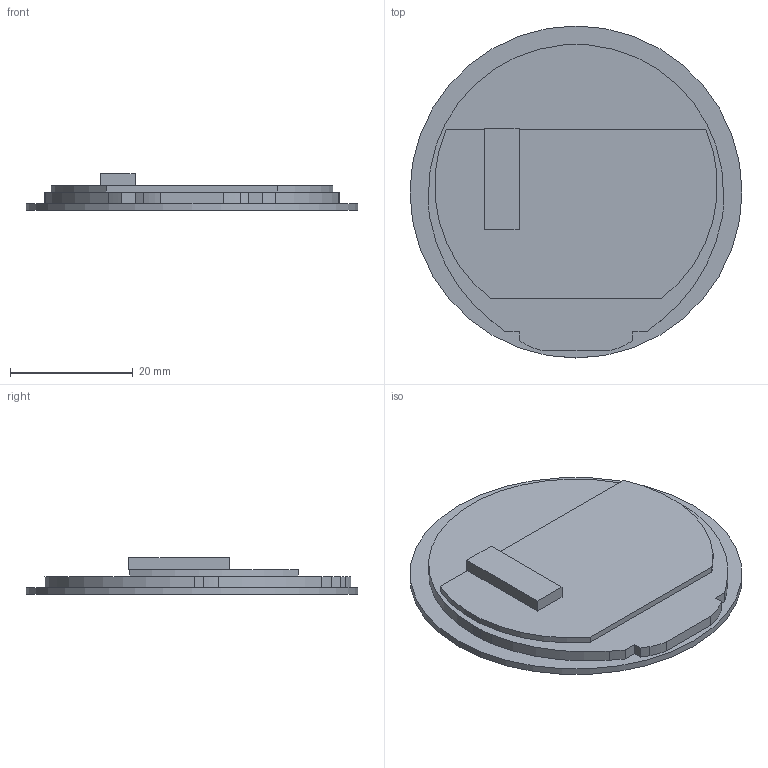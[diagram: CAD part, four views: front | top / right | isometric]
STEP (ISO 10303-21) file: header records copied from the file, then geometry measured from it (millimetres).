
FILE_DESCRIPTION(/* description */ (''),/* implementation_level */ '2;1');
FILE_NAME(/* name */ 'VTc018CY02CG.stp',/* time_stamp */ '2026-08-24T11:14:01+08:00',/* author */ (''),/* organization */ (''),/* preprocessor_version */ 'ST-DEVELOPER v16',/* originating_system */ 'SIEMENS PLM Software NX 10.0',/* authorisation */ '');
FILE_SCHEMA (('AP203_CONFIGURATION_CONTROLLED_3D_DESIGN_OF_MECHANICAL_PARTS_AND_ASSEMBLIES_MIM_LF { 1 0 10303 403 2 1 2}'));
Length unit declared in the file: millimetre
Products named in the file (1): VTc018CY02CG
Bounding box: 54 x 54 x 6 mm (x, y, z)
Volume: 7250.2 mm3; surface area: 15106.2 mm2
Topology: 6 solids, 6 shells, 42 faces, 90 edges, 60 vertices
Faces by surface type: plane 25, cylinder 17
Full cylindrical faces by diameter (mm): 45.684 x1, 46.08 x2, 54 x1
Entity records: 1373 total; most frequent: CARTESIAN_POINT 213, DIRECTION 198, ORIENTED_EDGE 172, EDGE_CURVE 86, AXIS2_PLACEMENT_3D 77, VERTEX_POINT 60, EDGE_LOOP 48, LINE 44
